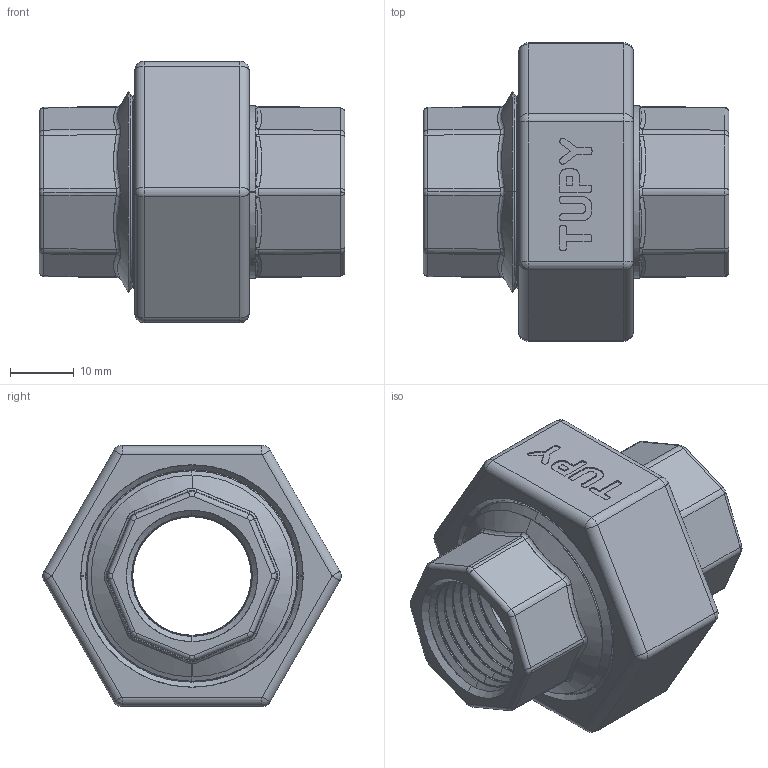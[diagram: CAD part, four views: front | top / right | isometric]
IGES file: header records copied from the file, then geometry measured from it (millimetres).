
Start section: SolidWorks IGES file using analytic representation for surfaces
Global section: file name: C:\Users\Joel Rosa\Desktop\Tubulação\12-63-X\12-63-004.IGS; native system: SolidWorks 2011; preprocessor: SolidWorks 2011; author: Joel Rosa; date: 130721.145843; units: millimetre
Bounding box: 48 x 46.88 x 41 mm (x, y, z)
Surface area: 17793.6 mm2 (no closed solid volume)
Topology: 0 solids, 0 shells, 520 faces, 3922 edges, 3914 vertices
Faces by surface type: bspline 320, revolution 200
